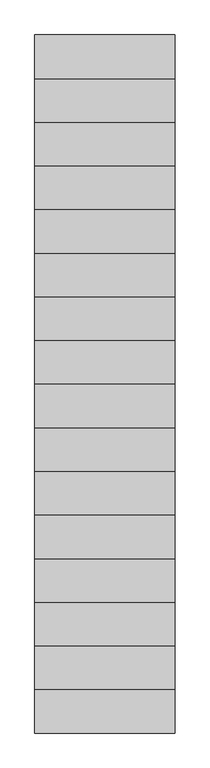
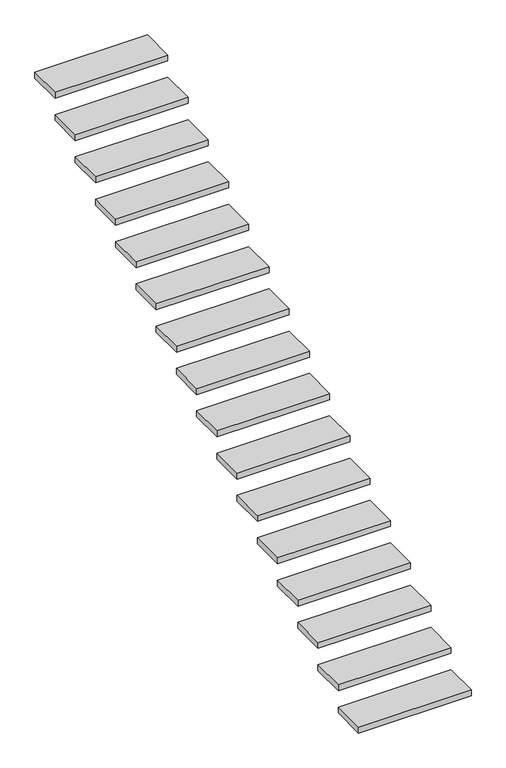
"""IFC4 building model written with IfcOpenShell, lengths in millimetres: stair flight geometry, Peldaños de cristal con huella de 50 mm y mamperlán de 30 mm."""

import ifcopenshell
import ifcopenshell.guid

model = None  # the IFC model being written
_history = None  # IfcOwnerHistory: only IFC2X3 demands one
_inside = {}  # id of a spatial element -> (the spatial element, [elements in it])
_under = {}  # id of a project, library or spatial element -> (it, [spatial elements below it])
_declared = {}  # id of a project -> (the project, [libraries it declares])
_typed = {}  # id of a type object -> (the type object, [elements of that type])
_made_of = {}  # id of a material, layer set ... -> (it, [elements and type objects made of it])


def new_model(schema):
    """Start an empty IFC model of exactly this schema.

    Asked for "IFC4X3", IfcOpenShell would pick the latest addendum, in which some entities
    have other attributes; the version numbers below select the first issue.
    IFC2X3 requires an IfcOwnerHistory on every rooted entity: one is made here for all.
    """
    global model, _history
    if schema == "IFC4X3":
        model = ifcopenshell.file(schema_version=(4, 3, 0, 0))
    else:
        model = ifcopenshell.file(schema=schema)
    _inside.clear()
    _under.clear()
    _declared.clear()
    _typed.clear()
    _made_of.clear()
    _history = None
    if model.schema == "IFC2X3":
        org = make("IfcOrganization", Name="unknown")
        user = make(
            "IfcPersonAndOrganization",
            ThePerson=make("IfcPerson", FamilyName="unknown"),
            TheOrganization=org,
        )
        app = make(
            "IfcApplication",
            ApplicationDeveloper=org,
            Version="unknown",
            ApplicationFullName="unknown",
            ApplicationIdentifier="unknown",
        )
        _history = make(
            "IfcOwnerHistory",
            OwningUser=user,
            OwningApplication=app,
            ChangeAction="ADDED",
            CreationDate=0,
        )
    return model


def make(cls, **values):
    """One entity of the class cls with the attributes given. An attribute that is None is left unset."""
    return model.create_entity(
        cls, **{name: value for name, value in values.items() if value is not None}
    )


def rooted(cls, **values):
    """An entity with a GlobalId (a new one), such as an element, a storey or a relation."""
    return make(cls, GlobalId=ifcopenshell.guid.new(), OwnerHistory=_history, **values)


def si_unit(unit_type, name, prefix=None):
    """IfcSIUnit, for example si_unit("LENGTHUNIT", "METRE", prefix="MILLI")."""
    return make("IfcSIUnit", UnitType=unit_type, Prefix=prefix, Name=name)


def assignment(units):
    """IfcUnitAssignment: the units of a project."""
    return None if units is None else make("IfcUnitAssignment", Units=units)


def point(xyz):
    """IfcCartesianPoint."""
    return None if xyz is None else make("IfcCartesianPoint", Coordinates=xyz)


def direction(xyz):
    """IfcDirection."""
    return None if xyz is None else make("IfcDirection", DirectionRatios=xyz)


def frame(location, z_axis=None, x_axis=None):
    """IfcAxis2Placement3D, a coordinate frame: its origin and axes. An axis left out is left unset."""
    return make(
        "IfcAxis2Placement3D",
        Location=point(location),
        Axis=direction(z_axis),
        RefDirection=direction(x_axis),
    )


def origin():
    """The frame at (0, 0, 0) with its axes left unset."""
    return frame((0.0, 0.0, 0.0))


def place(relative_to, where):
    """IfcLocalPlacement: puts the frame where relative to a parent placement (None: the world)."""
    return make(
        "IfcLocalPlacement", PlacementRelTo=relative_to, RelativePlacement=where
    )


def context(
    kind, dimensions, precision=None, world=None, true_north=None, identifier=None
):
    """IfcGeometricRepresentationContext, for example the 3D "Model" context."""
    return make(
        "IfcGeometricRepresentationContext",
        ContextIdentifier=identifier,
        ContextType=kind,
        CoordinateSpaceDimension=dimensions,
        Precision=precision,
        WorldCoordinateSystem=world,
        TrueNorth=true_north,
    )


def project(units=None, contexts=None):
    """IfcProject with its units and contexts."""
    return rooted(
        "IfcProject",
        Name="project",
        RepresentationContexts=contexts,
        UnitsInContext=assignment(units),
    )


def spatial(cls, under=None, at=None, **own):
    """A site, building, storey or space (cls), placed at a placement, below another one or the project."""
    s = rooted(cls, ObjectPlacement=at, **own)
    if under is not None:
        _under.setdefault(under.id(), (under, []))[1].append(s)
    return s


def polyline(points):
    """IfcPolyline through the points."""
    return make("IfcPolyline", Points=[point(p) for p in points])


def outline(outer, holes=None, kind="AREA"):
    """IfcArbitraryClosedProfileDef: a profile drawn as a closed curve; with holes, ...WithVoids."""
    if holes is None:
        return make("IfcArbitraryClosedProfileDef", ProfileType=kind, OuterCurve=outer)
    return make(
        "IfcArbitraryProfileDefWithVoids",
        ProfileType=kind,
        OuterCurve=outer,
        InnerCurves=holes,
    )


def extrude(swept, where, along, depth):
    """IfcExtrudedAreaSolid: the profile swept, set in the frame where, extruded along a direction by depth."""
    return make(
        "IfcExtrudedAreaSolid",
        SweptArea=swept,
        Position=where,
        ExtrudedDirection=direction(along),
        Depth=depth,
    )


def shape(context_of_items, identifier, shape_type, items):
    """IfcShapeRepresentation: the items that make up one representation, for example the "Body"."""
    return make(
        "IfcShapeRepresentation",
        ContextOfItems=context_of_items,
        RepresentationIdentifier=identifier,
        RepresentationType=shape_type,
        Items=items,
    )


def source(mapping_origin, context_of_items, identifier, shape_type, items):
    """IfcRepresentationMap: a shape defined once, which mapped items show again and again."""
    return make(
        "IfcRepresentationMap",
        MappingOrigin=mapping_origin,
        MappedRepresentation=shape(context_of_items, identifier, shape_type, items),
    )


def transform(
    local_origin,
    x_axis=None,
    y_axis=None,
    z_axis=None,
    scale=None,
    scale2=None,
    scale3=None,
    uniform=True,
):
    """IfcCartesianTransformationOperator3D, or its non-uniform kind. x_axis, y_axis, z_axis: its Axis1, 2, 3."""
    if uniform:
        return make(
            "IfcCartesianTransformationOperator3D",
            Axis1=direction(x_axis),
            Axis2=direction(y_axis),
            LocalOrigin=point(local_origin),
            Scale=scale,
            Axis3=direction(z_axis),
        )
    return make(
        "IfcCartesianTransformationOperator3DnonUniform",
        Axis1=direction(x_axis),
        Axis2=direction(y_axis),
        LocalOrigin=point(local_origin),
        Scale=scale,
        Axis3=direction(z_axis),
        Scale2=scale2,
        Scale3=scale3,
    )


def mapped(mapping_source, mapping_target):
    """IfcMappedItem: shows the shape of a source again, moved by a transform."""
    return make(
        "IfcMappedItem", MappingSource=mapping_source, MappingTarget=mapping_target
    )


def made_of(thing, what):
    """Note that an element or type object is made of a material, layer set ...; save() writes the relation."""
    if what is not None:
        _made_of.setdefault(what.id(), (what, []))[1].append(thing)
    return thing


def element(
    cls,
    number,
    at=None,
    inside=None,
    cuts=None,
    type_object=None,
    material=None,
    context=None,
    identifier="Body",
    shape_type=None,
    held_by="IfcProductDefinitionShape",
    body=None,
    shapes=None,
    **own,
):
    """One element of the class cls, such as IfcWall. Its Tag is "e" and its number.

    at: its placement. inside: the storey or other place that contains it. cuts: it is an
    opening in that element (IfcRelVoidsElement). A single representation is given by context,
    identifier, shape_type and body (its items); several are given by shapes. held_by: the class
    of the entity that holds the representations. save() writes the other relations.
    """
    e = rooted(cls, Tag="e%d" % number, ObjectPlacement=at, **own)
    if body is not None:
        shapes = [shape(context, identifier, shape_type, body)]
    if shapes is not None:
        e.Representation = make(held_by, Representations=shapes)
    if inside is not None:
        _inside.setdefault(inside.id(), (inside, []))[1].append(e)
    if cuts is not None:
        rooted(
            "IfcRelVoidsElement", RelatingBuildingElement=cuts, RelatedOpeningElement=e
        )
    if type_object is not None:
        _typed.setdefault(type_object.id(), (type_object, []))[1].append(e)
    return made_of(e, material)


def aggregate(whole, parts):
    """IfcRelAggregates: a whole, such as a stair, and the parts it consists of."""
    return rooted("IfcRelAggregates", RelatingObject=whole, RelatedObjects=parts)


def save(model, path):
    """Write the relations noted so far, then the file.

    IfcRelAggregates (storeys below a building ...), IfcRelContainedInSpatialStructure (elements
    in a storey), IfcRelDefinesByType, IfcRelAssociatesMaterial and IfcRelDeclares: one each for
    every whole, place, type object, material and project.
    """
    for whole, parts in _under.values():
        aggregate(whole, parts)
    for where, things in _inside.values():
        rooted(
            "IfcRelContainedInSpatialStructure",
            RelatedElements=things,
            RelatingStructure=where,
        )
    for kind, things in _typed.values():
        rooted("IfcRelDefinesByType", RelatedObjects=things, RelatingType=kind)
    for what, things in _made_of.values():
        rooted("IfcRelAssociatesMaterial", RelatedObjects=things, RelatingMaterial=what)
    for by, libraries in _declared.values():
        rooted("IfcRelDeclares", RelatingContext=by, RelatedDefinitions=libraries)
    model.write(path)


def stair_flight_09f7f50a(model_context):
    return source(origin(), model_context, "Body", "SweptSolid", [
        extrude(outline(polyline([(971.6012558, -7202.6669037), (1871.6012558, -7202.6669037), (1871.6012558, -7482.6669037), (971.6012558, -7482.6669037), (971.6012558, -7202.6669037)])), frame((0.0, 0.0, 237.5), z_axis=(0.0, 0.0, 1.0), x_axis=(1.0, 0.0, 0.0)), (0.0, 0.0, 1.0), 50.0),
        extrude(outline(polyline([(971.6012558, -6922.6669037), (1871.6012558, -6922.6669037), (1871.6012558, -7202.6669037), (971.6012558, -7202.6669037), (971.6012558, -6922.6669037)])), frame((0.0, 0.0, 425.0), z_axis=(0.0, 0.0, 1.0), x_axis=(1.0, 0.0, 0.0)), (0.0, 0.0, 1.0), 50.0),
        extrude(outline(polyline([(971.6012558, -6642.6669037), (1871.6012558, -6642.6669037), (1871.6012558, -6922.6669037), (971.6012558, -6922.6669037), (971.6012558, -6642.6669037)])), frame((0.0, 0.0, 612.5), z_axis=(0.0, 0.0, 1.0), x_axis=(1.0, 0.0, 0.0)), (0.0, 0.0, 1.0), 50.0),
        extrude(outline(polyline([(971.6012558, -6362.6669037), (1871.6012558, -6362.6669037), (1871.6012558, -6642.6669037), (971.6012558, -6642.6669037), (971.6012558, -6362.6669037)])), frame((0.0, 0.0, 800.0), z_axis=(0.0, 0.0, 1.0), x_axis=(1.0, 0.0, 0.0)), (0.0, 0.0, 1.0), 50.0),
        extrude(outline(polyline([(971.6012558, -6082.6669037), (1871.6012558, -6082.6669037), (1871.6012558, -6362.6669037), (971.6012558, -6362.6669037), (971.6012558, -6082.6669037)])), frame((0.0, 0.0, 987.5), z_axis=(0.0, 0.0, 1.0), x_axis=(1.0, 0.0, 0.0)), (0.0, 0.0, 1.0), 50.0),
        extrude(outline(polyline([(971.6012558, -5802.6669037), (1871.6012558, -5802.6669037), (1871.6012558, -6082.6669037), (971.6012558, -6082.6669037), (971.6012558, -5802.6669037)])), frame((0.0, 0.0, 1175.0), z_axis=(0.0, 0.0, 1.0), x_axis=(1.0, 0.0, 0.0)), (0.0, 0.0, 1.0), 50.0),
        extrude(outline(polyline([(971.6012558, -5522.6669037), (1871.6012558, -5522.6669037), (1871.6012558, -5802.6669037), (971.6012558, -5802.6669037), (971.6012558, -5522.6669037)])), frame((0.0, 0.0, 1362.5), z_axis=(0.0, 0.0, 1.0), x_axis=(1.0, 0.0, 0.0)), (0.0, 0.0, 1.0), 50.0),
        extrude(outline(polyline([(971.6012558, -5242.6669037), (1871.6012558, -5242.6669037), (1871.6012558, -5522.6669037), (971.6012558, -5522.6669037), (971.6012558, -5242.6669037)])), frame((0.0, 0.0, 1550.0), z_axis=(0.0, 0.0, 1.0), x_axis=(1.0, 0.0, 0.0)), (0.0, 0.0, 1.0), 50.0),
        extrude(outline(polyline([(971.6012558, -4962.6669037), (1871.6012558, -4962.6669037), (1871.6012558, -5242.6669037), (971.6012558, -5242.6669037), (971.6012558, -4962.6669037)])), frame((0.0, 0.0, 1737.5), z_axis=(0.0, 0.0, 1.0), x_axis=(1.0, 0.0, 0.0)), (0.0, 0.0, 1.0), 50.0),
        extrude(outline(polyline([(971.6012558, -4682.6669037), (1871.6012558, -4682.6669037), (1871.6012558, -4962.6669037), (971.6012558, -4962.6669037), (971.6012558, -4682.6669037)])), frame((0.0, 0.0, 1925.0), z_axis=(0.0, 0.0, 1.0), x_axis=(1.0, 0.0, 0.0)), (0.0, 0.0, 1.0), 50.0),
        extrude(outline(polyline([(971.6012558, -4402.6669037), (1871.6012558, -4402.6669037), (1871.6012558, -4682.6669037), (971.6012558, -4682.6669037), (971.6012558, -4402.6669037)])), frame((0.0, 0.0, 2112.5), z_axis=(0.0, 0.0, 1.0), x_axis=(1.0, 0.0, 0.0)), (0.0, 0.0, 1.0), 50.0),
        extrude(outline(polyline([(971.6012558, -4122.6669037), (1871.6012558, -4122.6669037), (1871.6012558, -4402.6669037), (971.6012558, -4402.6669037), (971.6012558, -4122.6669037)])), frame((0.0, 0.0, 2300.0), z_axis=(0.0, 0.0, 1.0), x_axis=(1.0, 0.0, 0.0)), (0.0, 0.0, 1.0), 50.0),
        extrude(outline(polyline([(971.6012558, -3842.6669037), (1871.6012558, -3842.6669037), (1871.6012558, -4122.6669037), (971.6012558, -4122.6669037), (971.6012558, -3842.6669037)])), frame((0.0, 0.0, 2487.5), z_axis=(0.0, 0.0, 1.0), x_axis=(1.0, 0.0, 0.0)), (0.0, 0.0, 1.0), 50.0),
        extrude(outline(polyline([(971.6012558, -3562.6669037), (1871.6012558, -3562.6669037), (1871.6012558, -3842.6669037), (971.6012558, -3842.6669037), (971.6012558, -3562.6669037)])), frame((0.0, 0.0, 2675.0), z_axis=(0.0, 0.0, 1.0), x_axis=(1.0, 0.0, 0.0)), (0.0, 0.0, 1.0), 50.0),
        extrude(outline(polyline([(971.6012558, -3282.6669037), (1871.6012558, -3282.6669037), (1871.6012558, -3562.6669037), (971.6012558, -3562.6669037), (971.6012558, -3282.6669037)])), frame((0.0, 0.0, 2862.5), z_axis=(0.0, 0.0, 1.0), x_axis=(1.0, 0.0, 0.0)), (0.0, 0.0, 1.0), 50.0),
        extrude(outline(polyline([(971.6012558, -3002.6669037), (1871.6012558, -3002.6669037), (1871.6012558, -3282.6669037), (971.6012558, -3282.6669037), (971.6012558, -3002.6669037)])), frame((0.0, 0.0, 3050.0), z_axis=(0.0, 0.0, 1.0), x_axis=(1.0, 0.0, 0.0)), (0.0, 0.0, 1.0), 50.0),
    ])


if __name__ == "__main__":
    model = new_model("IFC4")
    model_context = context("Model", 3, world=origin())
    ifc_project = project(units=[si_unit("LENGTHUNIT", "METRE", prefix="MILLI")], contexts=[model_context])
    site = spatial("IfcSite", under=ifc_project)
    building = spatial("IfcBuilding", under=site)
    placement = place(None, origin())
    stair_flight_shape = stair_flight_09f7f50a(model_context)
    element("IfcStairFlight", 1, ObjectType="Peldaños de cristal con huella de 50 mm y mamperlán de 30 mm", at=placement, inside=building, context=model_context, shape_type="MappedRepresentation", body=[
        mapped(stair_flight_shape, transform((0.0, 0.0, 0.0), x_axis=(1.0, 0.0, 0.0), y_axis=(0.0, 1.0, 0.0), z_axis=(0.0, 0.0, 1.0))),
    ])
    save(model, "model.ifc")
